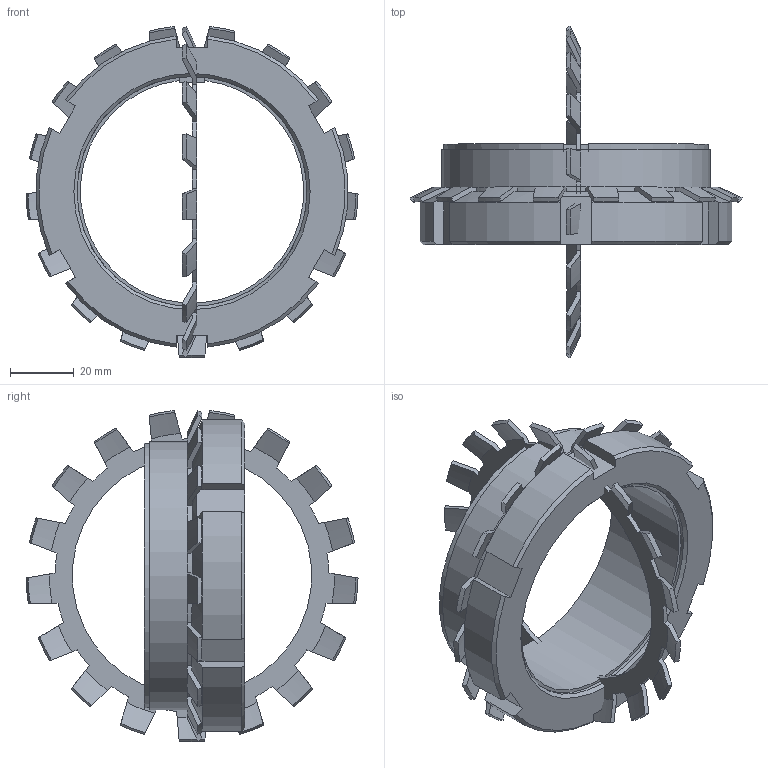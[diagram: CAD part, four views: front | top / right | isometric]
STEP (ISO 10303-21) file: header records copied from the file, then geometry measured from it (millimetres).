
FILE_DESCRIPTION( ( 'Unknown' ), '1' );
FILE_NAME( 'C:/Dokumente und Einstellungen/Sven/Desktop/homepage/cad - homepage/KBS51/KBS 51 - 70 x 84.stp', 'Unknown', ( 'Unknown' ), ( 'Unknown' ), 'XStep 1.0', 'Unknown', ' ' );
FILE_SCHEMA( ( 'automotive_design' ) );
Length unit declared in the file: millimetre
Products named in the file (3): Assem1; KBS 51 - 70 x 84; 08570150_locking_plate_din_5406_mb_15_2_14a
Bounding box: 103.99 x 103.99 x 103.68 mm (x, y, z)
Volume: 163517.7 mm3; surface area: 59340.7 mm2
Topology: 4 solids, 4 shells, 308 faces, 892 edges, 592 vertices
Faces by surface type: plane 132, cone 122, cylinder 54
Full cylindrical faces by diameter (mm): 72 x2, 84 x2
Entity records: 5514 total; most frequent: CARTESIAN_POINT 1157, ORIENTED_EDGE 880, DIRECTION 822, EDGE_CURVE 440, AXIS2_PLACEMENT_3D 325, VERTEX_POINT 294, LINE 172, VECTOR 172
